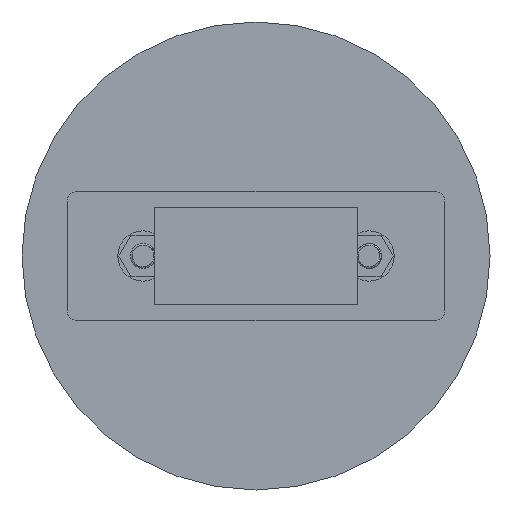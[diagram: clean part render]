
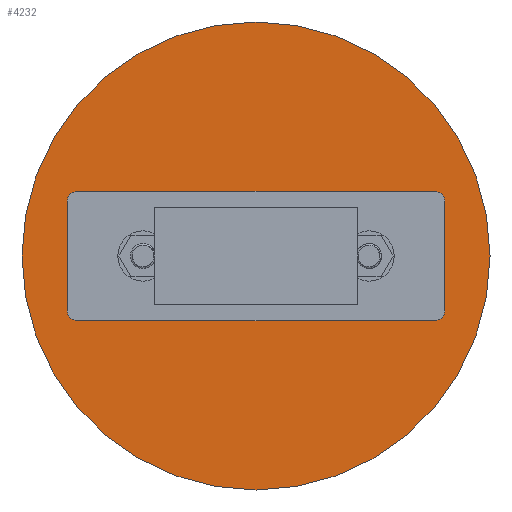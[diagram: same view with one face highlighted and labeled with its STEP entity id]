
A CAD part, front view. The second image highlights one B-rep face of the part: STEP entity #4232.
In plain terms, the highlighted planar face has unit normal (0, -1, 0).
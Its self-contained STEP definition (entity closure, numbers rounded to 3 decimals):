
#249 = EDGE_LOOP ( 'NONE', ( #9447, #6029 ) ) ;
#696 = CIRCLE ( 'NONE', #11532, 6. ) ;
#984 = CIRCLE ( 'NONE', #15547, 9. ) ;
#1053 = AXIS2_PLACEMENT_3D ( 'NONE', #12778, #12530, #4842 ) ;
#1262 = VERTEX_POINT ( 'NONE', #17903 ) ;
#1381 = AXIS2_PLACEMENT_3D ( 'NONE', #17505, #18861, #9693 ) ;
#1795 = CARTESIAN_POINT ( 'NONE',  ( 0., 154., 0. ) ) ;
#2445 = DIRECTION ( 'NONE',  ( 0., 0., 1. ) ) ;
#2768 = PLANE ( 'NONE',  #16248 ) ;
#2799 = VERTEX_POINT ( 'NONE', #12258 ) ;
#2900 = EDGE_CURVE ( 'NONE', #3141, #7840, #10760, .T. ) ;
#3141 = VERTEX_POINT ( 'NONE', #17741 ) ;
#3163 = EDGE_LOOP ( 'NONE', ( #13612, #4806 ) ) ;
#3620 = CARTESIAN_POINT ( 'NONE',  ( -35., 154., 0. ) ) ;
#4093 = EDGE_CURVE ( 'NONE', #1262, #15016, #10025, .T. ) ;
#4232 = ADVANCED_FACE ( 'NONE', ( #17798, #15601, #5411, #9052 ), #2768, .F. ) ;
#4463 = CARTESIAN_POINT ( 'NONE',  ( 0., 154., 0. ) ) ;
#4668 = CARTESIAN_POINT ( 'NONE',  ( 35., 154., 0. ) ) ;
#4745 = EDGE_CURVE ( 'NONE', #15016, #1262, #8303, .T. ) ;
#4806 = ORIENTED_EDGE ( 'NONE', *, *, #10112, .F. ) ;
#4842 = DIRECTION ( 'NONE',  ( 0., 0., 1. ) ) ;
#5198 = AXIS2_PLACEMENT_3D ( 'NONE', #4668, #6560, #14378 ) ;
#5411 = FACE_BOUND ( 'NONE', #13189, .T. ) ;
#5573 = EDGE_CURVE ( 'NONE', #12816, #12911, #16558, .T. ) ;
#5811 = EDGE_CURVE ( 'NONE', #2799, #11879, #16813, .T. ) ;
#6029 = ORIENTED_EDGE ( 'NONE', *, *, #4745, .F. ) ;
#6169 = DIRECTION ( 'NONE',  ( 0., 0., 1. ) ) ;
#6236 = CARTESIAN_POINT ( 'NONE',  ( -35., 154., 0. ) ) ;
#6415 = DIRECTION ( 'NONE',  ( 0., 0., 1. ) ) ;
#6560 = DIRECTION ( 'NONE',  ( 0., -1., 0. ) ) ;
#7840 = VERTEX_POINT ( 'NONE', #12327 ) ;
#7919 = DIRECTION ( 'NONE',  ( 0., -1., 0. ) ) ;
#7968 = DIRECTION ( 'NONE',  ( 0., 1., 0. ) ) ;
#8256 = EDGE_CURVE ( 'NONE', #11879, #2799, #984, .T. ) ;
#8303 = CIRCLE ( 'NONE', #5198, 6. ) ;
#8382 = DIRECTION ( 'NONE',  ( 0., -1., 0. ) ) ;
#8386 = DIRECTION ( 'NONE',  ( 0., 0., 1. ) ) ;
#8842 = ORIENTED_EDGE ( 'NONE', *, *, #2900, .F. ) ;
#9052 = FACE_OUTER_BOUND ( 'NONE', #18298, .T. ) ;
#9418 = ORIENTED_EDGE ( 'NONE', *, *, #14507, .F. ) ;
#9447 = ORIENTED_EDGE ( 'NONE', *, *, #4093, .F. ) ;
#9670 = CARTESIAN_POINT ( 'NONE',  ( -35., 154., 6. ) ) ;
#9693 = DIRECTION ( 'NONE',  ( 0., 0., 1. ) ) ;
#9709 = AXIS2_PLACEMENT_3D ( 'NONE', #6236, #7919, #6169 ) ;
#10025 = CIRCLE ( 'NONE', #10672, 6. ) ;
#10049 = CARTESIAN_POINT ( 'NONE',  ( 0., 154., 9. ) ) ;
#10112 = EDGE_CURVE ( 'NONE', #12911, #12816, #696, .T. ) ;
#10672 = AXIS2_PLACEMENT_3D ( 'NONE', #16575, #16500, #2445 ) ;
#10760 = CIRCLE ( 'NONE', #1053, 72.5 ) ;
#11532 = AXIS2_PLACEMENT_3D ( 'NONE', #3620, #8382, #13001 ) ;
#11879 = VERTEX_POINT ( 'NONE', #10049 ) ;
#12258 = CARTESIAN_POINT ( 'NONE',  ( 0., 154., -9. ) ) ;
#12327 = CARTESIAN_POINT ( 'NONE',  ( 0., 154., 72.5 ) ) ;
#12530 = DIRECTION ( 'NONE',  ( 0., 1., 0. ) ) ;
#12605 = AXIS2_PLACEMENT_3D ( 'NONE', #1795, #7968, #6415 ) ;
#12778 = CARTESIAN_POINT ( 'NONE',  ( 0., 154., 0. ) ) ;
#12816 = VERTEX_POINT ( 'NONE', #15646 ) ;
#12911 = VERTEX_POINT ( 'NONE', #9670 ) ;
#13001 = DIRECTION ( 'NONE',  ( 0., 0., 1. ) ) ;
#13189 = EDGE_LOOP ( 'NONE', ( #17049, #13330 ) ) ;
#13210 = CARTESIAN_POINT ( 'NONE',  ( 35., 154., 6. ) ) ;
#13330 = ORIENTED_EDGE ( 'NONE', *, *, #8256, .T. ) ;
#13612 = ORIENTED_EDGE ( 'NONE', *, *, #5573, .F. ) ;
#13702 = DIRECTION ( 'NONE',  ( 0., 1., 0. ) ) ;
#13763 = DIRECTION ( 'NONE',  ( 0., 0., 1. ) ) ;
#14378 = DIRECTION ( 'NONE',  ( 0., 0., 1. ) ) ;
#14507 = EDGE_CURVE ( 'NONE', #7840, #3141, #17378, .T. ) ;
#15016 = VERTEX_POINT ( 'NONE', #13210 ) ;
#15547 = AXIS2_PLACEMENT_3D ( 'NONE', #17686, #19384, #8386 ) ;
#15601 = FACE_BOUND ( 'NONE', #249, .T. ) ;
#15646 = CARTESIAN_POINT ( 'NONE',  ( -35., 154., -6. ) ) ;
#16248 = AXIS2_PLACEMENT_3D ( 'NONE', #4463, #13702, #13763 ) ;
#16500 = DIRECTION ( 'NONE',  ( 0., -1., 0. ) ) ;
#16558 = CIRCLE ( 'NONE', #9709, 6. ) ;
#16575 = CARTESIAN_POINT ( 'NONE',  ( 35., 154., 0. ) ) ;
#16813 = CIRCLE ( 'NONE', #1381, 9. ) ;
#17049 = ORIENTED_EDGE ( 'NONE', *, *, #5811, .T. ) ;
#17378 = CIRCLE ( 'NONE', #12605, 72.5 ) ;
#17505 = CARTESIAN_POINT ( 'NONE',  ( 0., 154., 0. ) ) ;
#17686 = CARTESIAN_POINT ( 'NONE',  ( 0., 154., 0. ) ) ;
#17741 = CARTESIAN_POINT ( 'NONE',  ( 0., 154., -72.5 ) ) ;
#17798 = FACE_BOUND ( 'NONE', #3163, .T. ) ;
#17903 = CARTESIAN_POINT ( 'NONE',  ( 35., 154., -6. ) ) ;
#18298 = EDGE_LOOP ( 'NONE', ( #8842, #9418 ) ) ;
#18861 = DIRECTION ( 'NONE',  ( 0., 1., 0. ) ) ;
#19384 = DIRECTION ( 'NONE',  ( 0., 1., 0. ) ) ;
